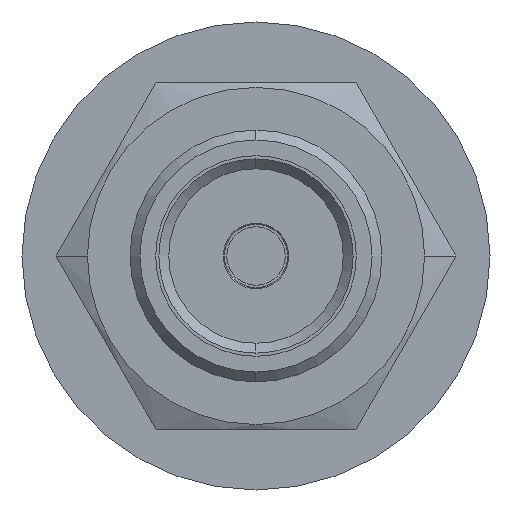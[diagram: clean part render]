
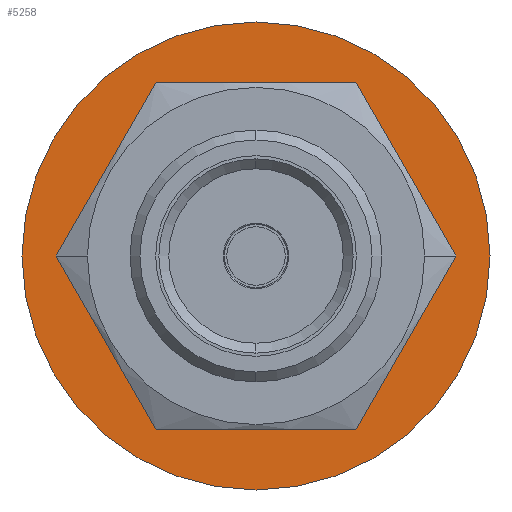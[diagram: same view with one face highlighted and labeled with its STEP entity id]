
A CAD part, left-side view. The second image highlights one B-rep face of the part: STEP entity #5258.
In plain terms, the highlighted planar face has unit normal (-1, 0, 0) as drawn and (0, 0, -1) by its records, which use the part's own axes.
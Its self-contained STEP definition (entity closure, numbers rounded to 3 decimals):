
#5133=CARTESIAN_POINT('',(0.,0.,-0.65));
#5134=DIRECTION('',(0.,0.,1.));
#5135=DIRECTION('',(1.,0.,0.));
#5136=AXIS2_PLACEMENT_3D('',#5133,#5134,#5135);
#5141=CARTESIAN_POINT('',(0.,0.,-0.65));
#5142=DIRECTION('',(0.,0.,1.));
#5143=DIRECTION('',(-1.,0.,0.));
#5144=AXIS2_PLACEMENT_3D('',#5141,#5142,#5143);
#5149=CARTESIAN_POINT('',(0.,0.,-0.65));
#5150=DIRECTION('',(0.,0.,-1.));
#5151=DIRECTION('',(1.,0.,0.));
#5152=AXIS2_PLACEMENT_3D('',#5149,#5150,#5151);
#5157=CARTESIAN_POINT('',(0.,0.,-0.65));
#5158=DIRECTION('',(0.,0.,-1.));
#5159=DIRECTION('',(-1.,0.,0.));
#5160=AXIS2_PLACEMENT_3D('',#5157,#5158,#5159);
#5225=CARTESIAN_POINT('',(11.8,0.,-0.65));
#5226=CARTESIAN_POINT('',(-11.8,0.,-0.65));
#5227=VERTEX_POINT('',#5225);
#5228=VERTEX_POINT('',#5226);
#5229=CARTESIAN_POINT('',(6.05,0.,-0.65));
#5230=CARTESIAN_POINT('',(-6.05,0.,-0.65));
#5231=VERTEX_POINT('',#5229);
#5232=VERTEX_POINT('',#5230);
#5241=CARTESIAN_POINT('',(0.,0.,-0.65));
#5242=DIRECTION('',(0.,0.,1.));
#5243=DIRECTION('',(1.,0.,0.));
#5244=AXIS2_PLACEMENT_3D('',#5241,#5242,#5243);
#5245=PLANE('',#5244);
#5247=ORIENTED_EDGE('',*,*,#5246,.T.);
#5249=ORIENTED_EDGE('',*,*,#5248,.T.);
#5250=EDGE_LOOP('',(#5247,#5249));
#5251=FACE_OUTER_BOUND('',#5250,.F.);
#5253=ORIENTED_EDGE('',*,*,#5252,.T.);
#5255=ORIENTED_EDGE('',*,*,#5254,.T.);
#5256=EDGE_LOOP('',(#5253,#5255));
#5257=FACE_BOUND('',#5256,.F.);
#5258=ADVANCED_FACE('',(#5251,#5257),#5245,.F.);
#5137=CIRCLE('',#5136,11.8);
#5145=CIRCLE('',#5144,11.8);
#5153=CIRCLE('',#5152,6.05);
#5161=CIRCLE('',#5160,6.05);
#5246=EDGE_CURVE('',#5227,#5228,#5137,.T.);
#5248=EDGE_CURVE('',#5228,#5227,#5145,.T.);
#5252=EDGE_CURVE('',#5231,#5232,#5153,.T.);
#5254=EDGE_CURVE('',#5232,#5231,#5161,.T.);
